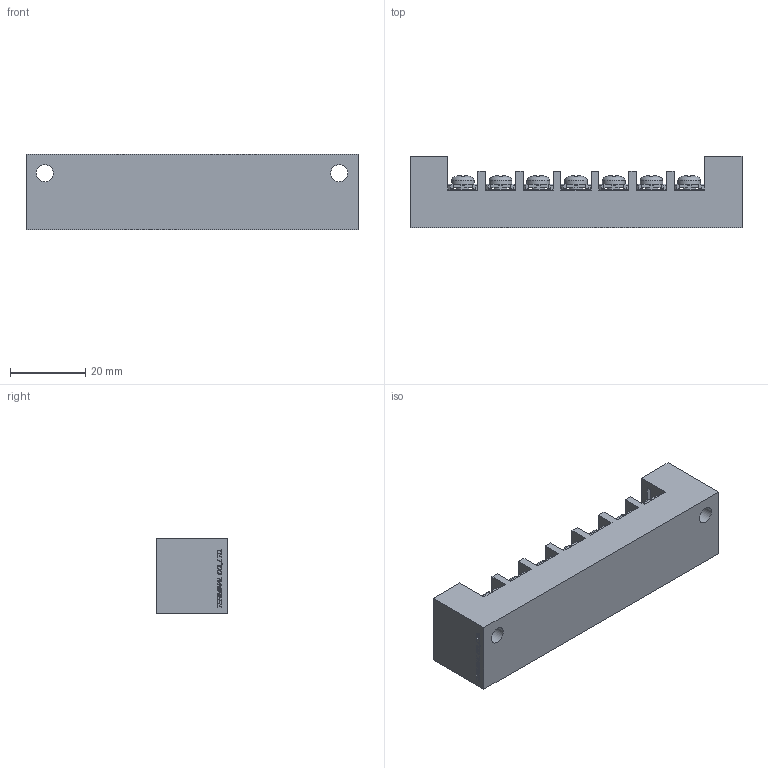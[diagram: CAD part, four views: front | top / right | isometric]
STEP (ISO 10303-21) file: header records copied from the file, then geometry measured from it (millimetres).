
FILE_DESCRIPTION(/* description */ ('Alibre Inc.'),/* implementation_level */ '2;1');
FILE_NAME(/* name */ 'export0',/* time_stamp */ '2016-02-13T17:53:09+09:00',/* author */ (''),/* organization */ (''),/* preprocessor_version */ 'ST-DEVELOPER v14',/* originating_system */ 'Alibre',/* authorisation */ '');
FILE_SCHEMA (('CONFIG_CONTROL_DESIGN'));
Length unit declared in the file: centimetre
Products named in the file (1): ID_1
Bounding box: 88 x 19 x 20 mm (x, y, z)
Volume: 22810.6 mm3; surface area: 11746.9 mm2
Topology: 1 solids, 15 shells, 1503 faces, 4068 edges, 2572 vertices
Faces by surface type: plane 1013, bspline 276, cone 70, extrusion 56, cylinder 46, sphere 28, torus 14
Full cylindrical faces by diameter (mm): 3.5 x28, 4.5 x2, 6 x14, 7 x2
Entity records: 53618 total; most frequent: CARTESIAN_POINT 19994, ORIENTED_EDGE 7932, DIRECTION 4855, EDGE_CURVE 3966, VECTOR 2707, LINE 2679, VERTEX_POINT 2544, EDGE_LOOP 1684
